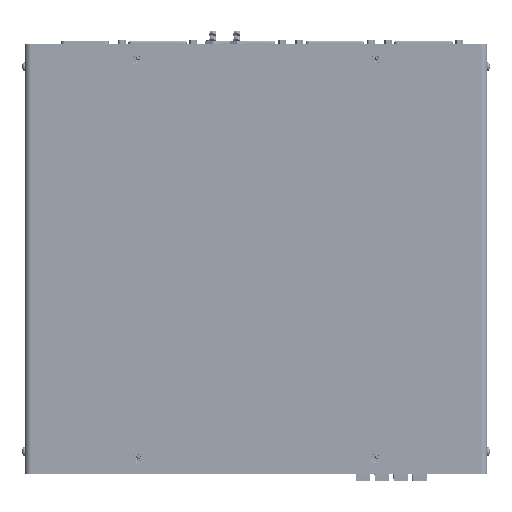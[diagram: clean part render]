
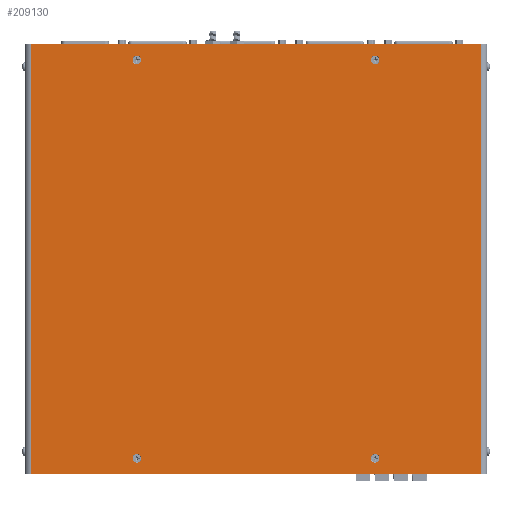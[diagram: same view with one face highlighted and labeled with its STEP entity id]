
A CAD part, top view. The second image highlights one B-rep face of the part: STEP entity #209130.
In plain terms, the highlighted planar face has unit normal (0, 0, 1) as drawn and (0, 0, -1) by its records, which use the part's own axes.
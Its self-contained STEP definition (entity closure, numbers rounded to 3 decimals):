
#16913=FACE_BOUND('',#42203,.T.);
#16914=FACE_BOUND('',#42204,.T.);
#16915=FACE_BOUND('',#42205,.T.);
#16916=FACE_BOUND('',#42206,.T.);
#19826=PLANE('',#218530);
#30191=FACE_OUTER_BOUND('',#42202,.T.);
#42202=EDGE_LOOP('',(#171103,#171104,#171105,#171106));
#42203=EDGE_LOOP('',(#171107));
#42204=EDGE_LOOP('',(#171108));
#42205=EDGE_LOOP('',(#171109));
#42206=EDGE_LOOP('',(#171110));
#57274=LINE('',#341023,#77680);
#57405=LINE('',#341291,#77811);
#57411=LINE('',#341304,#77817);
#57803=LINE('',#342099,#78209);
#77680=VECTOR('',#240185,10.);
#77811=VECTOR('',#240326,10.);
#77817=VECTOR('',#240338,10.);
#78209=VECTOR('',#241270,10.);
#90173=CIRCLE('',#218222,2.858);
#90176=CIRCLE('',#218226,2.858);
#90179=CIRCLE('',#218230,2.858);
#90182=CIRCLE('',#218234,2.858);
#101570=VERTEX_POINT('',#340445);
#101573=VERTEX_POINT('',#340453);
#101576=VERTEX_POINT('',#340461);
#101579=VERTEX_POINT('',#340469);
#101851=VERTEX_POINT('',#341020);
#101852=VERTEX_POINT('',#341022);
#101984=VERTEX_POINT('',#341290);
#101987=VERTEX_POINT('',#341300);
#125780=EDGE_CURVE('',#101570,#101570,#90173,.T.);
#125784=EDGE_CURVE('',#101573,#101573,#90176,.T.);
#125788=EDGE_CURVE('',#101576,#101576,#90179,.T.);
#125792=EDGE_CURVE('',#101579,#101579,#90182,.T.);
#126067=EDGE_CURVE('',#101851,#101852,#57274,.T.);
#126201=EDGE_CURVE('',#101852,#101984,#57405,.T.);
#126209=EDGE_CURVE('',#101984,#101987,#57411,.T.);
#126607=EDGE_CURVE('',#101851,#101987,#57803,.T.);
#171103=ORIENTED_EDGE('',*,*,#126067,.F.);
#171104=ORIENTED_EDGE('',*,*,#126607,.T.);
#171105=ORIENTED_EDGE('',*,*,#126209,.F.);
#171106=ORIENTED_EDGE('',*,*,#126201,.F.);
#171107=ORIENTED_EDGE('',*,*,#125780,.T.);
#171108=ORIENTED_EDGE('',*,*,#125784,.T.);
#171109=ORIENTED_EDGE('',*,*,#125788,.T.);
#171110=ORIENTED_EDGE('',*,*,#125792,.T.);
#209130=ADVANCED_FACE('',(#30191,#16913,#16914,#16915,#16916),#19826,.F.);
#218222=AXIS2_PLACEMENT_3D('',#340446,#239861,#239862);
#218226=AXIS2_PLACEMENT_3D('',#340454,#239870,#239871);
#218230=AXIS2_PLACEMENT_3D('',#340462,#239879,#239880);
#218234=AXIS2_PLACEMENT_3D('',#340470,#239888,#239889);
#218530=AXIS2_PLACEMENT_3D('',#342101,#241273,#241274);
#239861=DIRECTION('center_axis',(0.,0.,1.));
#239862=DIRECTION('ref_axis',(-1.,0.,0.));
#239870=DIRECTION('center_axis',(0.,0.,1.));
#239871=DIRECTION('ref_axis',(-1.,0.,0.));
#239879=DIRECTION('center_axis',(0.,0.,1.));
#239880=DIRECTION('ref_axis',(-1.,0.,0.));
#239888=DIRECTION('center_axis',(0.,0.,1.));
#239889=DIRECTION('ref_axis',(-1.,0.,0.));
#240185=DIRECTION('',(0.,-1.,0.));
#240326=DIRECTION('',(1.,0.,0.));
#240338=DIRECTION('',(0.,1.,0.));
#241270=DIRECTION('',(1.,0.,0.));
#241273=DIRECTION('center_axis',(0.,0.,1.));
#241274=DIRECTION('ref_axis',(1.,0.,0.));
#340445=CARTESIAN_POINT('',(74.943,272.532,0.));
#340446=CARTESIAN_POINT('Origin',(72.085,272.532,0.));
#340453=CARTESIAN_POINT('',(74.943,10.16,0.));
#340454=CARTESIAN_POINT('Origin',(72.085,10.16,0.));
#340461=CARTESIAN_POINT('',(231.915,10.16,0.));
#340462=CARTESIAN_POINT('Origin',(229.057,10.16,0.));
#340469=CARTESIAN_POINT('',(231.915,272.532,0.));
#340470=CARTESIAN_POINT('Origin',(229.057,272.532,0.));
#341020=CARTESIAN_POINT('',(2.291,282.692,0.));
#341022=CARTESIAN_POINT('',(2.291,0.,0.));
#341023=CARTESIAN_POINT('',(2.291,212.019,0.));
#341290=CARTESIAN_POINT('',(298.851,0.,0.));
#341291=CARTESIAN_POINT('',(-1.575,0.,0.));
#341300=CARTESIAN_POINT('',(298.851,282.692,0.));
#341304=CARTESIAN_POINT('',(298.851,70.673,0.));
#342099=CARTESIAN_POINT('',(-1.575,282.692,0.));
#342101=CARTESIAN_POINT('Origin',(150.571,141.346,0.));
